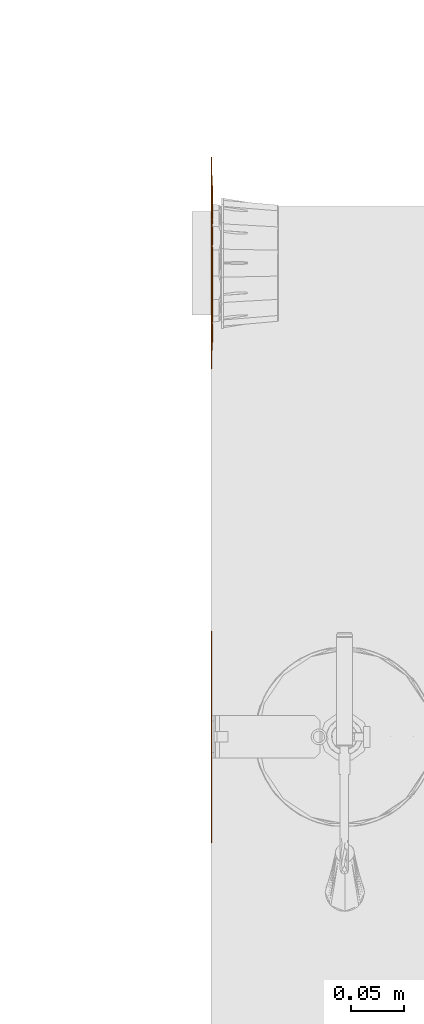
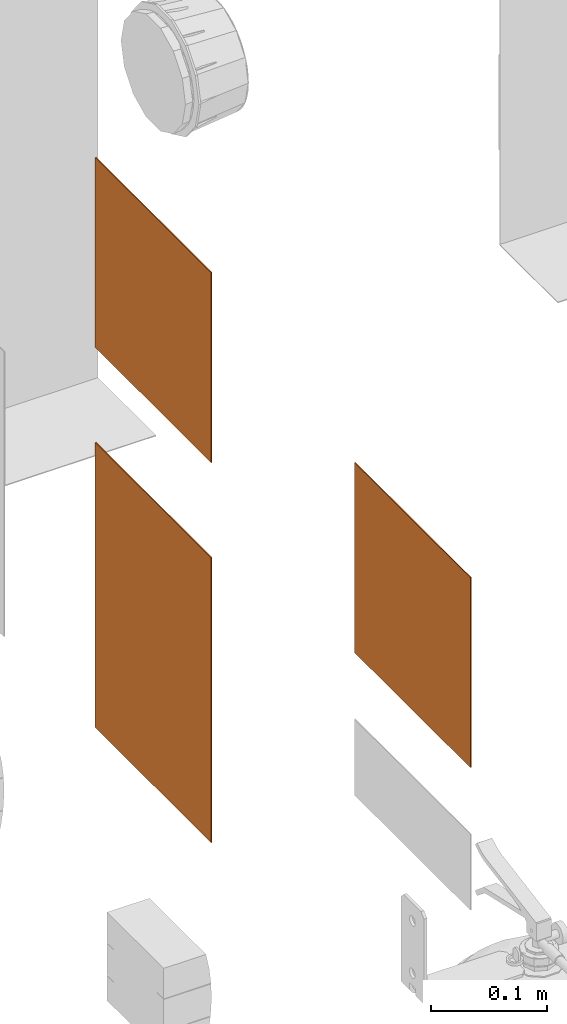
# One storey, part 97 of 119: 3 proxies.
"""IFC2X3 building model written with IfcOpenShell, lengths in metres."""

from ifc_helpers import new_model, entity, si_unit, converted_unit, derived_unit, direction, frame, frame_2d, origin, origin_2d_with_axis, place, context, subcontext, project, spatial, polyline, circle_curve, parameter, trimmed, segment, composite_curve, rectangle, circle, outline, extrude, source, transform, mapped, material, material_list, type_object, type_shapes, element, save


model = new_model("IFC2X3")

# Units and contexts
model_context = context("Model", 3, precision=1e-05, world=origin(), true_north=direction((6.12303176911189e-17, 1.0)))
body_context = subcontext(model_context, "Body", "Model", "MODEL_VIEW")
ifc_project = project(units=[si_unit("LENGTHUNIT", "METRE"), si_unit("AREAUNIT", "SQUARE_METRE"), si_unit("VOLUMEUNIT", "CUBIC_METRE"), converted_unit("PLANEANGLEUNIT", "DEGREE", entity("IfcRatioMeasure", 0.0174532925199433), si_unit("PLANEANGLEUNIT", "RADIAN"), dimensions=[0, 0, 0, 0, 0, 0, 0]), si_unit("MASSUNIT", "GRAM", prefix="KILO"), derived_unit("MASSDENSITYUNIT", [(si_unit("MASSUNIT", "GRAM", prefix="KILO"), 1), (si_unit("LENGTHUNIT", "METRE"), -3)]), derived_unit("MOMENTOFINERTIAUNIT", [(si_unit("LENGTHUNIT", "METRE"), 4)]), si_unit("TIMEUNIT", "SECOND"), si_unit("FREQUENCYUNIT", "HERTZ"), si_unit("THERMODYNAMICTEMPERATUREUNIT", "DEGREE_CELSIUS"), derived_unit("THERMALTRANSMITTANCEUNIT", [(si_unit("MASSUNIT", "GRAM", prefix="KILO"), 1), (si_unit("THERMODYNAMICTEMPERATUREUNIT", "KELVIN"), -1), (si_unit("TIMEUNIT", "SECOND"), -3)]), derived_unit("VOLUMETRICFLOWRATEUNIT", [(si_unit("LENGTHUNIT", "METRE"), 3), (si_unit("TIMEUNIT", "SECOND"), -1)]), si_unit("ELECTRICCURRENTUNIT", "AMPERE"), si_unit("ELECTRICVOLTAGEUNIT", "VOLT"), si_unit("POWERUNIT", "WATT"), si_unit("FORCEUNIT", "NEWTON", prefix="KILO"), si_unit("ILLUMINANCEUNIT", "LUX"), si_unit("LUMINOUSFLUXUNIT", "LUMEN"), si_unit("LUMINOUSINTENSITYUNIT", "CANDELA"), derived_unit("USERDEFINED", [(si_unit("MASSUNIT", "GRAM", prefix="KILO"), -1), (si_unit("LENGTHUNIT", "METRE"), -2), (si_unit("TIMEUNIT", "SECOND"), 3), (si_unit("LUMINOUSFLUXUNIT", "LUMEN"), 1)]), derived_unit("LINEARVELOCITYUNIT", [(si_unit("LENGTHUNIT", "METRE"), 1), (si_unit("TIMEUNIT", "SECOND"), -1)]), si_unit("PRESSUREUNIT", "PASCAL"), derived_unit("USERDEFINED", [(si_unit("LENGTHUNIT", "METRE"), -2), (si_unit("MASSUNIT", "GRAM", prefix="KILO"), 1), (si_unit("TIMEUNIT", "SECOND"), -2)]), derived_unit("LINEARFORCEUNIT", [(si_unit("MASSUNIT", "GRAM", prefix="KILO"), 1), (si_unit("LENGTHUNIT", "METRE"), 1), (si_unit("TIMEUNIT", "SECOND"), -2), (si_unit("LENGTHUNIT", "METRE"), -1)]), derived_unit("PLANARFORCEUNIT", [(si_unit("MASSUNIT", "GRAM", prefix="KILO"), 1), (si_unit("LENGTHUNIT", "METRE"), 1), (si_unit("TIMEUNIT", "SECOND"), -2), (si_unit("LENGTHUNIT", "METRE"), -2)])], contexts=[model_context])

# Site, building, storey
site_placement = place(None, origin())
site = spatial("IfcSite", under=ifc_project, at=site_placement, Name="Default", CompositionType="ELEMENT")
building_placement = place(site_placement, origin())
building = spatial("IfcBuilding", under=site, at=building_placement, CompositionType="ELEMENT")
storey_placement = place(building_placement, origin())
storey = spatial("IfcBuildingStorey", under=building, at=storey_placement, Name="PAV. 01 - TÉRREO", CompositionType="ELEMENT", Elevation=0.0)

# Proxies
ifc_material_1 = material(Name="Plastico branco")
ifc_material_2 = material(Name="Plastico vermelho")
ifc_material_list_1 = material_list([ifc_material_1, ifc_material_2])
building_element_proxy_type_1 = type_object("IfcBuildingElementProxyType", Name="Sinalização de equipamentos - E05 - Extintor de incêndio:Distância 08m", PredefinedType="NOTDEFINED", material=ifc_material_1)
shared_shape_1 = source(origin(), body_context, "Body", "SweptSolid", [
    extrude(outline(composite_curve([segment(polyline([(-0.039533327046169, -0.0988107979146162), (0.0136590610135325, -0.0988107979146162)]), True, "CONTINUOUS"), segment(polyline([(0.0136590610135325, -0.0988107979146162), (0.0136590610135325, -0.0150548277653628)]), True, "CONTINUOUS"), segment(polyline([(0.0136590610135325, -0.0150548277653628), (0.0132403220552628, -0.0112272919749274)]), True, "CONTINUOUS"), segment(polyline([(0.0132403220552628, -0.0112272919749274), (0.0119841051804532, -0.00798860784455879)]), True, "CONTINUOUS"), segment(polyline([(0.0119841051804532, -0.00798860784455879), (0.00989041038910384, -0.00533877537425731)]), True, "CONTINUOUS"), segment(polyline([(0.00989041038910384, -0.00533877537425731), (0.00695923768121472, -0.00327779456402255)]), True, "CONTINUOUS"), segment(polyline([(0.00695923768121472, -0.00327779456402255), (0.00319058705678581, -0.00180566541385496)]), True, "CONTINUOUS"), segment(polyline([(0.00319058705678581, -0.00180566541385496), (-0.00141554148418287, -0.000922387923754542)]), True, "CONTINUOUS"), segment(polyline([(-0.00141554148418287, -0.000922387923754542), (-0.00685914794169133, -0.000627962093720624)]), True, "CONTINUOUS"), segment(polyline([(-0.00685914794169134, -0.000627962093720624), (-0.00685914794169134, 0.00837547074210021)]), True, "CONTINUOUS"), segment(polyline([(-0.00685914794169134, 0.00837547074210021), (0.000568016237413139, 0.00837547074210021)]), True, "CONTINUOUS"), segment(polyline([(0.000568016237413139, 0.00837547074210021), (0.021500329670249, -0.0075875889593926)]), True, "CONTINUOUS"), segment(polyline([(0.021500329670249, -0.0075875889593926), (0.021500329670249, -0.0104328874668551)]), True, "CONTINUOUS"), segment(polyline([(0.021500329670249, -0.0104328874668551), (0.0245059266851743, -0.0104328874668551)]), True, "CONTINUOUS"), segment(polyline([(0.0245059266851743, -0.0104328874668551), (0.0245059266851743, -0.00811335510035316)]), True, "CONTINUOUS"), segment(polyline([(0.0245059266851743, -0.00811335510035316), (0.0243642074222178, -0.00545038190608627)]), True, "CONTINUOUS"), segment(polyline([(0.0243642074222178, -0.00545038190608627), (0.0239570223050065, -0.0032112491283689)]), True, "CONTINUOUS"), segment(polyline([(0.0239570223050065, -0.0032112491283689), (0.0233113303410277, -0.00132119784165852)]), True, "CONTINUOUS"), segment(polyline([(0.0233113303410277, -0.00132119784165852), (0.0224540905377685, 0.00029453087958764)]), True, "CONTINUOUS"), segment(polyline([(0.0224540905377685, 0.00029453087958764), (0.0214122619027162, 0.00171069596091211)]), True, "CONTINUOUS"), segment(polyline([(0.0214122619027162, 0.00171069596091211), (0.0202128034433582, 0.00300205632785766)]), True, "CONTINUOUS"), segment(polyline([(0.0202128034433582, 0.00300205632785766), (0.0188826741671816, 0.00424337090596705)]), True, "CONTINUOUS"), segment(polyline([(0.0188826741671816, 0.00424337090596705), (0.0144021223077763, 0.00811180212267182)]), True, "CONTINUOUS"), segment(polyline([(0.0144021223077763, 0.00811180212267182), (0.0113518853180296, 0.0106145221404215)]), True, "CONTINUOUS"), segment(polyline([(0.0113518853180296, 0.0106145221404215), (0.0085825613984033, 0.0127576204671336)]), True, "CONTINUOUS"), segment(polyline([(0.0085825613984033, 0.0127576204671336), (0.00738733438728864, 0.0136170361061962)]), True, "CONTINUOUS"), segment(polyline([(0.00738733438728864, 0.0136170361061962), (0.00631521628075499, 0.0143235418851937)]), True, "CONTINUOUS"), segment(polyline([(0.00631521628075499, 0.0143235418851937), (0.00532850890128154, 0.0148903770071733)]), True, "CONTINUOUS"), segment(polyline([(0.00532850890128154, 0.0148903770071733), (0.00438926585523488, 0.0153309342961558)]), True, "CONTINUOUS"), segment(polyline([(0.00438926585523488, 0.0153309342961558), (0.00345954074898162, 0.0156586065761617)]), True, "CONTINUOUS"), segment(polyline([(0.00345954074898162, 0.0156586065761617), (0.00250138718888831, 0.0158867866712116)]), True, "CONTINUOUS"), segment(polyline([(0.00250138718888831, 0.0158867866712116), (0.00144087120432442, 0.0160289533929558)]), True, "CONTINUOUS"), segment(polyline([(0.00144087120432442, 0.0160289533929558), (-0.000108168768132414, 0.0160993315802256)]), True, "CONTINUOUS"), segment(polyline([(-0.000108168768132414, 0.0160993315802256), (-0.00685914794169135, 0.0160831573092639)]), True, "CONTINUOUS"), segment(polyline([(-0.00685914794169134, 0.0160831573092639), (-0.00685914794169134, 0.0213863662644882)]), True, "CONTINUOUS"), segment(polyline([(-0.00685914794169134, 0.0213863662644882), (-0.0177728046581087, 0.0213863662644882)]), True, "CONTINUOUS"), segment(polyline([(-0.0177728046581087, 0.0213863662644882), (-0.0177728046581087, 0.0160831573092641)]), True, "CONTINUOUS"), segment(polyline([(-0.0177728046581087, 0.0160831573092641), (-0.0288467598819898, 0.0160831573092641)]), True, "CONTINUOUS"), segment(trimmed(circle_curve(frame_2d((-0.0288467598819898, 0.0122293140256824), x_axis=(-1.0, 0.0)), 0.00385384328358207), [parameter(270.0)], [parameter(90.0000000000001)], True, "PARAMETER"), True, "CONTINUOUS"), segment(polyline([(-0.0288467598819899, 0.00837547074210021), (-0.0190151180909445, 0.00837547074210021)]), True, "CONTINUOUS"), segment(polyline([(-0.0190151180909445, 0.00837547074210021), (-0.0190151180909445, -0.000627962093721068)]), True, "CONTINUOUS"), segment(polyline([(-0.0190151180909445, -0.000627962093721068), (-0.024458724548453, -0.000922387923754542)]), True, "CONTINUOUS"), segment(polyline([(-0.024458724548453, -0.000922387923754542), (-0.0290648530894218, -0.00180566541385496)]), True, "CONTINUOUS"), segment(polyline([(-0.0290648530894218, -0.00180566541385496), (-0.0328335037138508, -0.00327779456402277)]), True, "CONTINUOUS"), segment(polyline([(-0.0328335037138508, -0.00327779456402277), (-0.03576467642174, -0.00533877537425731)]), True, "CONTINUOUS"), segment(polyline([(-0.03576467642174, -0.00533877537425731), (-0.0378583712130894, -0.00798860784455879)]), True, "CONTINUOUS"), segment(polyline([(-0.0378583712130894, -0.00798860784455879), (-0.0391145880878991, -0.0112272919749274)]), True, "CONTINUOUS"), segment(polyline([(-0.0391145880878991, -0.0112272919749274), (-0.039533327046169, -0.0150548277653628)]), True, "CONTINUOUS"), segment(polyline([(-0.039533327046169, -0.0150548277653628), (-0.039533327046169, -0.0988107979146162)]), True, "CONTINUOUS")], self_intersect=False)), frame((-0.0129371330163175, -0.0011, 1.94006139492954), z_axis=(0.0, 1.0, 0.0), x_axis=(-1.0, 0.0, 0.0)), (0.0, 0.0, 1.0), 0.0011),
    extrude(rectangle(XDim=0.001, YDim=0.179, at=origin_2d_with_axis()), frame((0.0, -0.0005, 1.8105), z_axis=(0.0, 0.0, 1.0), x_axis=(0.0, 1.0, 0.0)), (0.0, 0.0, 1.0), 0.179),
    extrude(outline(polyline([(-0.100000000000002, -0.1), (0.100000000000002, -0.1), (0.100000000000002, 0.1), (-0.100000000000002, 0.1), (-0.100000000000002, -0.1)]), holes=[polyline([(-0.0895000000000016, -0.0895000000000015), (-0.0895000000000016, 0.0894999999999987), (0.0894999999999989, 0.0894999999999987), (0.0894999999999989, -0.0895000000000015), (-0.0895000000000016, -0.0895000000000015)])]), frame((0.0, -0.001, 1.9), z_axis=(0.0, 1.0, 0.0), x_axis=(0.0, 0.0, -1.0)), (0.0, 0.0, 1.0), 0.001),
])
type_shapes(building_element_proxy_type_1, [shared_shape_1])
proxy_1_placement = place(storey_placement, frame((79.6740605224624, 19.8353728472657, 0.0), z_axis=(0.0, 0.0, 1.0), x_axis=(0.0, 1.0, 0.0)))
element("IfcBuildingElementProxy", 1, at=proxy_1_placement, inside=storey, type_object=building_element_proxy_type_1, material=ifc_material_list_1, Name="Sinalização de equipamentos - E05 - Extintor de incêndio:Distância 08m", ObjectType="Sinalização de equipamentos - E05 - Extintor de incêndio:Distância 08m", context=body_context, shape_type="MappedRepresentation", body=[
    mapped(shared_shape_1, transform((0.0, 0.0, 0.0), scale=1.0)),
])
ifc_material_list_2 = material_list([ifc_material_1, ifc_material_2])
building_element_proxy_type_2 = type_object("IfcBuildingElementProxyType", Name="Sinalização de equipamentos - E01 - Alarme sonoro:Distância 08m", PredefinedType="NOTDEFINED", material=ifc_material_1)
shared_shape_2 = source(origin(), body_context, "Body", "SweptSolid", [
    extrude(outline(polyline([(-0.0323377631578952, -0.00693625), (-0.0323377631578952, -0.072205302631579), (0.0327805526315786, -0.072205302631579), (0.0327805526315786, -0.00693625), (0.0119600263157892, -0.00693625), (0.0308021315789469, 0.0792286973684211), (-0.0310376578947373, 0.0929269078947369), (-0.0126100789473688, -0.00693625), (-0.0323377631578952, -0.00693625)]), holes=[polyline([(-0.0238399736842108, -0.0163761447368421), (0.0237363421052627, -0.0163761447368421), (0.0237363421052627, -0.0634060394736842), (-0.0238399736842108, -0.0634060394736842), (-0.0238399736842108, -0.0163761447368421)]), polyline([(0.00317960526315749, -0.00693625), (-0.00394002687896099, -0.00693625), (-0.0201846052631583, 0.0816593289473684), (0.020533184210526, 0.0725020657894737), (0.00317960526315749, -0.00693625)])]), frame((-0.0103042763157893, -0.0015, 1.95018371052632), z_axis=(0.0, -1.0, 0.0), x_axis=(0.0, 0.0, -1.0)), (0.0, 0.0, -1.0), 0.0015),
    extrude(rectangle(XDim=0.001, YDim=0.179, at=origin_2d_with_axis()), frame((0.0, -0.0005, 1.8605), z_axis=(0.0, 0.0, 1.0), x_axis=(0.0, 1.0, 0.0)), (0.0, 0.0, 1.0), 0.179),
    extrude(outline(polyline([(-0.100000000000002, -0.1), (0.100000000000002, -0.1), (0.100000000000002, 0.1), (-0.100000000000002, 0.1), (-0.100000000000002, -0.1)]), holes=[polyline([(-0.0895000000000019, -0.0895000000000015), (-0.0895000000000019, 0.0894999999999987), (0.0894999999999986, 0.0894999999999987), (0.0894999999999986, -0.0895000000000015), (-0.0895000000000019, -0.0895000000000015)])]), frame((0.0, -0.001, 1.95), z_axis=(0.0, 1.0, 0.0), x_axis=(0.0, 0.0, -1.0)), (0.0, 0.0, 1.0), 0.001),
])
type_shapes(building_element_proxy_type_2, [shared_shape_2])
proxy_2_placement = place(storey_placement, frame((79.6740605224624, 20.2821521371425, 0.0), z_axis=(0.0, 0.0, 1.0), x_axis=(0.0, 1.0, 0.0)))
element("IfcBuildingElementProxy", 2, at=proxy_2_placement, inside=storey, type_object=building_element_proxy_type_2, material=ifc_material_list_2, Name="Sinalização de equipamentos - E01 - Alarme sonoro:Distância 08m", ObjectType="Sinalização de equipamentos - E01 - Alarme sonoro:Distância 08m", context=body_context, shape_type="MappedRepresentation", body=[
    mapped(shared_shape_2, transform((0.0, 0.0, 0.0), scale=1.0)),
])
ifc_material_list_3 = material_list([ifc_material_1, ifc_material_2])
building_element_proxy_type_3 = type_object("IfcBuildingElementProxyType", Name="Sinalização de equipamentos - E02 - Comando manual de alarme:Distância 08m", PredefinedType="NOTDEFINED", material=ifc_material_1)
shared_shape_3 = source(origin(), body_context, "Body", "SweptSolid", [
    extrude(outline(polyline([(-0.00862797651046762, -0.00563161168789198), (-0.00493908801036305, -0.00563161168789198), (-0.00349461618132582, -0.00153589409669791), (0.00346718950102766, -0.00153589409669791), (0.00489337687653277, -0.00563161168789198), (0.00863254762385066, -0.00563161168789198), (0.00190386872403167, 0.0127991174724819), (-0.00183530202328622, 0.0127991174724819), (-0.00862797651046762, -0.00563161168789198)]), holes=[polyline([(-0.00237012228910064, 0.00168216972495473), (2.2855566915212e-06, 0.00841084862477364), (0.00234269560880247, 0.00168216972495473), (-0.00237012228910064, 0.00168216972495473)])]), frame((-0.0659680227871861, -0.0022123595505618, 1.53273031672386), z_axis=(0.0, 1.0, 0.0), x_axis=(-1.0, 0.0, 0.0)), (0.0, 0.0, 1.0), 0.0022123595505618),
    extrude(outline(polyline([(-0.00721626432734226, -0.0054609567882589), (0.0112144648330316, -0.0054609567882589), (0.0112144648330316, -0.00195034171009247), (-0.00399820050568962, -0.00195034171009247), (-0.00399820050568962, 0.00741129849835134), (-0.00721626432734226, 0.00741129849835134), (-0.00721626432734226, -0.0054609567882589)])), frame((-0.0501237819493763, -0.0022123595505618, 1.53431496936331), z_axis=(0.0, 1.0, 0.0), x_axis=(0.0, 0.0, 1.0)), (0.0, 0.0, 1.0), 0.0022123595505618),
    extrude(outline(polyline([(-0.00862797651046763, -0.00563161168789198), (-0.00493908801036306, -0.00563161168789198), (-0.00349461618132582, -0.00153589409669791), (0.00346718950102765, -0.00153589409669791), (0.00489337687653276, -0.00563161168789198), (0.00863254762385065, -0.00563161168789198), (0.00190386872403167, 0.0127991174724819), (-0.00183530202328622, 0.0127991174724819), (-0.00862797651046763, -0.00563161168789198)]), holes=[polyline([(-0.00237012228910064, 0.00168216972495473), (2.28555669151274e-06, 0.00841084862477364), (0.00234269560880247, 0.00168216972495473), (-0.00237012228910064, 0.00168216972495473)])]), frame((-0.0332022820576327, -0.0022123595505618, 1.53273031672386), z_axis=(0.0, 1.0, 0.0), x_axis=(-1.0, 0.0, 0.0)), (0.0, 0.0, 1.0), 0.0022123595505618),
    extrude(outline(polyline([(-0.00817015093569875, -0.00955162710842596), (0.0102605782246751, -0.00955162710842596), (0.0102605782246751, -0.00179901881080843), (0.00976232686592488, 0.00245211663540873), (0.00798873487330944, 0.00457311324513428), (0.00506779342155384, 0.00536848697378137), (0.00162574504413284, 0.00421885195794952), (-8.38513611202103e-05, 0.000779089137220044), (-0.00161974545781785, 0.00262124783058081), (-0.00459554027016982, 0.00457768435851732), (-0.00817015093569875, 0.00683124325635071), (-0.00817015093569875, 0.00273095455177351), (-0.00396015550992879, 6.14243360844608e-05), (-0.00146204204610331, -0.00203443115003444), (-0.000563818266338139, -0.00523649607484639), (-0.00817015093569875, -0.00604101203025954), (-0.00817015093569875, -0.00955162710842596)]), holes=[polyline([(0.0026542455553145, -0.00604101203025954), (0.0026542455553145, -0.00314749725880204), (0.00286680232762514, 0.0003654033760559), (0.00698308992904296, -0.000135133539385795), (0.00704251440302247, -0.00298750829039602), (0.00704251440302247, -0.00604101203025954), (0.0026542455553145, -0.00604101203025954)])]), frame((-0.0132673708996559, -0.0022123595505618, 1.53526885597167), z_axis=(0.0, 1.0, 0.0), x_axis=(0.0, 0.0, 1.0)), (0.0, 0.0, 1.0), 0.0022123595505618),
    extrude(outline(polyline([(-0.00835388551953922, -0.0089231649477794), (0.0100768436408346, -0.0089231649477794), (0.0100768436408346, -0.00290757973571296), (-0.00249371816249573, -3.51624106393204e-07), (0.0100768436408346, 0.00290687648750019), (0.0100768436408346, 0.00892246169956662), (-0.00835388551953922, 0.00892246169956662), (-0.00835388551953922, 0.0054118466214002), (0.00615482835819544, 0.00526557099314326), (-0.00835388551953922, 0.00205664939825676), (-0.00835388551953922, -0.00205278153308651), (0.00615482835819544, -0.00526627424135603), (-0.00835388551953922, -0.00541254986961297), (-0.00835388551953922, -0.0089231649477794)])), frame((0.00453489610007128, -0.0022123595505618, 1.53545259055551), z_axis=(0.0, 1.0, 0.0), x_axis=(0.0, 0.0, 1.0)), (0.0, 0.0, 1.0), 0.0022123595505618),
    extrude(outline(polyline([(-0.00931288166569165, -0.00799640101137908), (0.00911784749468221, -0.00799640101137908), (0.00911784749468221, 0.00575350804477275), (0.00589978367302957, 0.00575350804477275), (0.00589978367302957, -0.00448578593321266), (0.0018040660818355, -0.00448578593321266), (0.0018040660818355, 0.00516840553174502), (-0.00141399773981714, 0.00516840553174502), (-0.00141399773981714, -0.00448578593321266), (-0.00609481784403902, -0.00448578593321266), (-0.00609481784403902, 0.00604605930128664), (-0.00931288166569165, 0.00604605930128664), (-0.00931288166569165, -0.00799640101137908)])), frame((0.0249643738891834, -0.0022123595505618, 1.53641158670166), z_axis=(0.0, 1.0, 0.0), x_axis=(0.0, 0.0, 1.0)), (0.0, 0.0, 1.0), 0.0022123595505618),
    extrude(outline(polyline([(-0.00963237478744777, -0.00923822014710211), (-0.00280770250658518, -0.00923822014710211), (0.000712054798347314, -0.00888624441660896), (0.00350043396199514, -0.00718807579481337), (0.00526716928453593, -0.00420313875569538), (0.00587284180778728, 0.000155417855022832), (0.00530602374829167, 0.00407743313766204), (0.00332216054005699, 0.00733206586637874), (0.000698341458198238, 0.00880396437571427), (-0.00260657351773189, 0.00919250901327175), (-0.00963237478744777, 0.00919250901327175), (-0.00963237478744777, -0.00923822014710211)]), holes=[polyline([(-0.00612175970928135, -0.00602015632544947), (-0.00612175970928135, 0.00597444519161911), (-0.00313225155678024, 0.00597444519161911), (-0.000709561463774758, 0.00580074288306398), (0.000906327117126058, 0.00504879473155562), (0.00195539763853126, 0.00330034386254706), (0.00236222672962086, -1.82844535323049e-05), (0.00195539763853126, -0.00324091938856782), (0.000819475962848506, -0.00499622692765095), (-0.00103411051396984, -0.00584645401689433), (-0.00432074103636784, -0.00602015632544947), (-0.00612175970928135, -0.00602015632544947)])]), frame((0.0505895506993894, -0.0022123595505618, 1.53629121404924), z_axis=(0.0, 1.0, 0.0), x_axis=(1.0, 0.0, 0.0)), (0.0, 0.0, 1.0), 0.0022123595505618),
    extrude(outline(polyline([(-0.00931288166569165, -0.00799640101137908), (0.00911784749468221, -0.00799640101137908), (0.00911784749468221, 0.00575350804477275), (0.00589978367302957, 0.00575350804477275), (0.00589978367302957, -0.00448578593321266), (0.0018040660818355, -0.00448578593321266), (0.0018040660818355, 0.00516840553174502), (-0.00141399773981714, 0.00516840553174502), (-0.00141399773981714, -0.00448578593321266), (-0.00609481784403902, -0.00448578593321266), (-0.00609481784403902, 0.00604605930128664), (-0.00931288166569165, 0.00604605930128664), (-0.00931288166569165, -0.00799640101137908)])), frame((0.0673843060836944, -0.0022123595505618, 1.53641158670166), z_axis=(0.0, 1.0, 0.0), x_axis=(0.0, 0.0, 1.0)), (0.0, 0.0, 1.0), 0.0022123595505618),
    extrude(rectangle(XDim=0.0022123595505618, YDim=0.00351061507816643, at=frame_2d((0.0, -4.22838847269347e-18), x_axis=(1.0, 0.0))), frame((-0.0588028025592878, -0.0011061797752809, 1.49460223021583), z_axis=(0.0, 0.0, 1.0), x_axis=(0.0, 1.0, 0.0)), (0.0, 0.0, 1.0), 0.0184307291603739),
    extrude(outline(polyline([(-0.00919708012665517, -0.00744862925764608), (0.00923364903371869, -0.00744862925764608), (0.00923364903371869, -0.00376888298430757), (-0.00317235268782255, 0.00396086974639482), (0.00923364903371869, 0.00396086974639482), (0.00923364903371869, 0.00747148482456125), (-0.00919708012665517, 0.00747148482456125), (-0.00919708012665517, 0.00367746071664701), (0.00302607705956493, -0.00393801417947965), (-0.00919708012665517, -0.00393801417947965), (-0.00919708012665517, -0.00744862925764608)])), frame((-0.046088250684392, -0.0022123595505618, 1.50379931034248), z_axis=(0.0, 1.0, 0.0), x_axis=(0.0, 0.0, 1.0)), (0.0, 0.0, 1.0), 0.0022123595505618),
    extrude(outline(polyline([(0.00431987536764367, 0.00106265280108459), (0.0080203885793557, 0.00106265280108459), (0.00679097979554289, 0.00611977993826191), (0.0025895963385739, 0.00904043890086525), (-0.00392677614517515, 0.00861545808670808), (-0.00830378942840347, 0.00297217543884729), (-0.00825825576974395, -0.00444402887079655), (-0.00308837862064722, -0.00880297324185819), (0.00280208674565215, -0.00859337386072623), (0.0057075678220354, -0.00587580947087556), (0.00256213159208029, -0.004210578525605), (0.000503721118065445, -0.0057818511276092), (-0.00230057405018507, -0.00567343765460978), (-0.00522195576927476, -0.00319871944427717), (-0.00505861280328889, 0.00160616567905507), (-0.0022796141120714, 0.00575840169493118), (0.00144185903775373, 0.00603088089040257), (0.00369975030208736, 0.00431216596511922), (0.00431987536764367, 0.00106265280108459)])), frame((-0.0268737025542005, -0.0022123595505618, 1.50399764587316), z_axis=(0.0, 1.0, 0.0), x_axis=(0.948683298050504, 0.0, -0.316227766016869)), (0.0, 0.0, 1.0), 0.0022123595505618),
    extrude(outline(polyline([(-0.00931288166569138, -0.00799640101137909), (0.00911784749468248, -0.00799640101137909), (0.00911784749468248, 0.00575350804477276), (0.00589978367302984, 0.00575350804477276), (0.00589978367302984, -0.00448578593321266), (0.00180406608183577, -0.00448578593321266), (0.00180406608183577, 0.00516840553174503), (-0.00141399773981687, 0.00516840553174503), (-0.00141399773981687, -0.00448578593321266), (-0.00609481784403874, -0.00448578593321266), (-0.00609481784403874, 0.00604605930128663), (-0.00931288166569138, 0.00604605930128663), (-0.00931288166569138, -0.00799640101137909)])), frame((-0.00867902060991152, -0.0022123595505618, 1.50391511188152), z_axis=(0.0, 1.0, 0.0), x_axis=(0.0, 0.0, 1.0)), (0.0, 0.0, 1.0), 0.0022123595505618),
    extrude(outline(polyline([(-0.00919708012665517, -0.00744862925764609), (0.00923364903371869, -0.00744862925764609), (0.00923364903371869, -0.00376888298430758), (-0.00317235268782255, 0.00396086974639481), (0.00923364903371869, 0.00396086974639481), (0.00923364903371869, 0.00747148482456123), (-0.00919708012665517, 0.00747148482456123), (-0.00919708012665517, 0.003677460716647), (0.00302607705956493, -0.00393801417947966), (-0.00919708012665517, -0.00393801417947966), (-0.00919708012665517, -0.00744862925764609)])), frame((0.00774118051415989, -0.0022123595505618, 1.50379931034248), z_axis=(0.0, 1.0, 0.0), x_axis=(0.0, 0.0, 1.0)), (0.0, 0.0, 1.0), 0.0022123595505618),
    extrude(outline(polyline([(-0.00963237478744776, -0.00923822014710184), (-0.00280770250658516, -0.00923822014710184), (0.000712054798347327, -0.00888624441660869), (0.00350043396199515, -0.00718807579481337), (0.00526716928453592, -0.00420313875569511), (0.0058728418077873, 0.000155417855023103), (0.00530602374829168, 0.00407743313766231), (0.003322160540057, 0.00733206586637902), (0.000698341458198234, 0.00880396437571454), (-0.00260657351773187, 0.00919250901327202), (-0.00963237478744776, 0.00919250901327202), (-0.00963237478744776, -0.00923822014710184)]), holes=[polyline([(-0.00612175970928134, -0.0060201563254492), (-0.00612175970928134, 0.00597444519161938), (-0.00313225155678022, 0.00597444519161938), (-0.000709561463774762, 0.00580074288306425), (0.00090632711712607, 0.00504879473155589), (0.00195539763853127, 0.00330034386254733), (0.00236222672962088, -1.82844535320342e-05), (0.00195539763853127, -0.00324091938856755), (0.000819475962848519, -0.00499622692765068), (-0.00103411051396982, -0.00584645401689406), (-0.00432074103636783, -0.0060201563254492), (-0.00612175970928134, -0.0060201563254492)])]), frame((0.0283556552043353, -0.0022123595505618, 1.5037947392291), z_axis=(0.0, 1.0, 0.0), x_axis=(1.0, 0.0, 0.0)), (0.0, 0.0, 1.0), 0.0022123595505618),
    extrude(rectangle(XDim=0.0022123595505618, YDim=0.00351061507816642, at=origin_2d_with_axis()), frame((0.0389093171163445, -0.0011061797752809, 1.49460223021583), z_axis=(0.0, 0.0, 1.0), x_axis=(0.0, 1.0, 0.0)), (0.0, 0.0, 1.0), 0.0184307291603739),
    extrude(outline(polyline([(-0.0027413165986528, -0.0072353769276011), (0.0020480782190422, -0.0072353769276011), (0.00482213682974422, -0.00601174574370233), (0.00685816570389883, -0.00399502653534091), (0.00824841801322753, -0.000275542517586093), (0.00687087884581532, 0.00646330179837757), (0.000381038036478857, 0.0100380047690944), (-0.00689652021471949, 0.0088964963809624), (-0.0104736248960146, 0.00305448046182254), (-0.00911725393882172, -0.00369921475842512), (-0.0027413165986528, -0.0072353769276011)]), holes=[polyline([(-0.00200878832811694, -0.00379965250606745), (-0.00638392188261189, -0.00151705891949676), (-0.00730473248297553, 0.00249405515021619), (-0.00508828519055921, 0.00593636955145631), (-0.000139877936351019, 0.00656516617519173), (0.00422261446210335, 0.00434280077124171), (0.00508584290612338, 0.000320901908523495), (0.00288428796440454, -0.00318203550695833), (-0.00200878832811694, -0.00379965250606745)])]), frame((0.0511902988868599, -0.0022123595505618, 1.50515350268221), z_axis=(0.0, 1.0, 0.0), x_axis=(0.172750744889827, 0.0, 0.984965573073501)), (0.0, 0.0, 1.0), 0.0022123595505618),
    extrude(outline(polyline([(-0.00331762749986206, -0.00249092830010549), (0.000995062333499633, -0.00249092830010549), (0.00269430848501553, -0.00010950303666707), (0.00127033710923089, 0.00393891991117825), (-0.000258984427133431, 0.00179563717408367), (0.0004052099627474, -0.000295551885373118), (-0.00178830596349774, -0.00034764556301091), (-0.00331762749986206, -0.00249092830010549)])), frame((-0.00979524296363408, -0.0022123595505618, 1.51574950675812), z_axis=(0.0, 1.0, 0.0), x_axis=(0.580837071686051, 0.0, 0.814019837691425)), (0.0, 0.0, 1.0), 0.0022123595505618),
    extrude(circle(Radius=0.0367452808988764, at=frame_2d((-5.36303450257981e-23, -2.70716782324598e-16), x_axis=(1.0, 0.0))), frame((0.0, -0.0011, 1.64973853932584), z_axis=(0.0, 1.0, 0.0), x_axis=(1.0, 0.0, 0.0)), (0.0, 0.0, 1.0), 0.0011),
    extrude(outline(polyline([(-0.0713787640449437, -0.075200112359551), (0.0713787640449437, -0.075200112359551), (0.0752001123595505, -0.0713787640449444), (0.0752001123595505, 0.0713787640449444), (0.0713787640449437, 0.075200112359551), (-0.0713787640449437, 0.075200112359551), (-0.0752001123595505, 0.0713787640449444), (-0.0752001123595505, -0.0713787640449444), (-0.0713787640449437, -0.075200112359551)]), holes=[composite_curve([segment(trimmed(circle_curve(origin_2d_with_axis(), 0.0583057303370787), [parameter(180.0)], [parameter(360.0)], True, "PARAMETER"), False, "CONTINUOUS"), segment(trimmed(circle_curve(origin_2d_with_axis(), 0.0583057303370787), [parameter(0.0)], [parameter(180.0)], True, "PARAMETER"), False, "CONTINUOUS")], self_intersect=False)]), frame((0.0, -0.0011, 1.64973853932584), z_axis=(0.0, 1.0, 0.0), x_axis=(1.0, 0.0, 0.0)), (0.0, 0.0, 1.0), 0.0011),
    extrude(rectangle(XDim=0.001, YDim=0.179, at=origin_2d_with_axis()), frame((0.0, -0.0005, 1.4605), z_axis=(0.0, 0.0, 1.0), x_axis=(0.0, 1.0, 0.0)), (0.0, 0.0, 1.0), 0.279),
    extrude(outline(polyline([(-0.150000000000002, -0.1), (0.150000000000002, -0.1), (0.150000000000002, 0.1), (-0.150000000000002, 0.1), (-0.150000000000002, -0.1)]), holes=[polyline([(-0.139500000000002, -0.0895000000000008), (-0.139500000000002, 0.0894999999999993), (0.139499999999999, 0.0894999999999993), (0.139499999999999, -0.0895000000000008), (-0.139500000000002, -0.0895000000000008)])]), frame((0.0, -0.001, 1.6), z_axis=(0.0, 1.0, 0.0), x_axis=(0.0, 0.0, -1.0)), (0.0, 0.0, 1.0), 0.001),
])
type_shapes(building_element_proxy_type_3, [shared_shape_3])
proxy_3_placement = place(storey_placement, frame((79.6740605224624, 20.2821521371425, 0.0), z_axis=(0.0, 0.0, 1.0), x_axis=(0.0, 1.0, 0.0)))
element("IfcBuildingElementProxy", 3, at=proxy_3_placement, inside=storey, type_object=building_element_proxy_type_3, material=ifc_material_list_3, Name="Sinalização de equipamentos - E02 - Comando manual de alarme:Distância 08m", ObjectType="Sinalização de equipamentos - E02 - Comando manual de alarme:Distância 08m", context=body_context, shape_type="MappedRepresentation", body=[
    mapped(shared_shape_3, transform((0.0, 0.0, 0.0), scale=1.0)),
])

save(model, "model.ifc")
